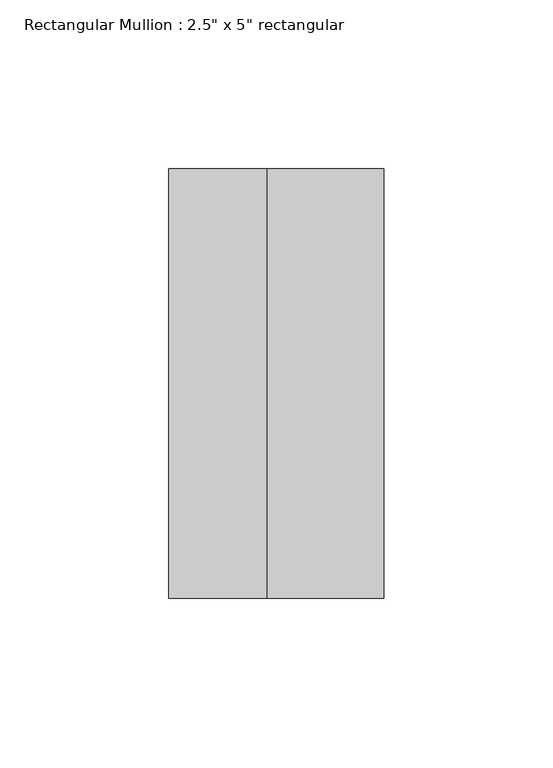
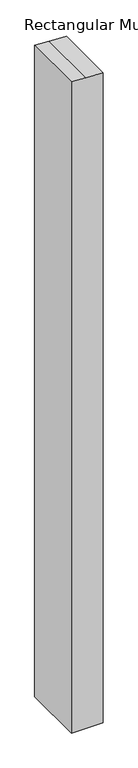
"""IFC4 building model written with IfcOpenShell, lengths in millimetres: member geometry."""

from ifc_helpers import new_model, si_unit, frame, origin, place, context, project, spatial, polyline, outline, extrude, source, transform, mapped, element, save


def member_2de5b73c(model_context):
    return source(origin(), model_context, "Body", "SweptSolid", [
        extrude(outline(polyline([(-64.8775557, 31.75), (-63.4449853, -2.6426951), (-62.232569, -31.75), (-1439.7143899, -31.75), (-1439.7143899, 31.75), (-64.8775557, 31.75)])), frame((0.0, -63.5, 0.0), z_axis=(0.0, 1.0, 0.0), x_axis=(0.0, 0.0, 1.0)), (0.0, 0.0, 1.0), 127.0),
    ])


if __name__ == "__main__":
    model = new_model("IFC4")
    model_context = context("Model", 3, world=origin())
    ifc_project = project(units=[si_unit("LENGTHUNIT", "METRE", prefix="MILLI")], contexts=[model_context])
    site = spatial("IfcSite", under=ifc_project)
    building = spatial("IfcBuilding", under=site)
    placement = place(None, origin())
    member_shape = member_2de5b73c(model_context)
    element("IfcMember", 1, ObjectType="Rectangular Mullion : 2.5\" x 5\" rectangular", at=placement, inside=building, context=model_context, shape_type="MappedRepresentation", body=[
        mapped(member_shape, transform((0.0, 0.0, 0.0), x_axis=(1.0, 0.0, 0.0), y_axis=(0.0, 1.0, 0.0), z_axis=(0.0, 0.0, 1.0))),
    ])
    save(model, "model.ifc")
